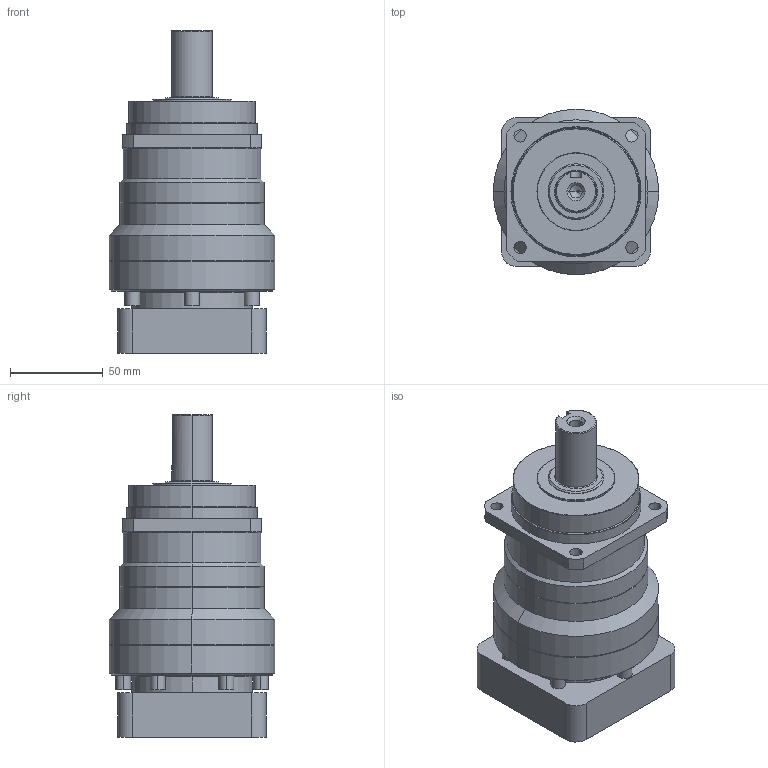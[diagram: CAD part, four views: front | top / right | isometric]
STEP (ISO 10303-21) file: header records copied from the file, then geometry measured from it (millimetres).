
FILE_DESCRIPTION (( 'STEP AP214' ), '1' );
FILE_NAME ('VRS075-L1-S2-P1 19-70-90-M6.STEP', '2023-08-31T09:33:10', ( '微软用户' ), ( '微软中国' ), 'SwSTEP 2.0', 'SolidWorks 2018', '' );
FILE_SCHEMA (( 'AUTOMOTIVE_DESIGN' ));
Length unit declared in the file: millimetre
Products named in the file (1): VRS075-L1-S2-P1 19-70-90-M6
Bounding box: 89 x 89 x 173.5 mm (x, y, z)
Volume: 652563.3 mm3; surface area: 70784.4 mm2
Topology: 1 solids, 1 shells, 187 faces, 445 edges, 279 vertices
Faces by surface type: plane 82, cylinder 68, cone 26, torus 11
Entity records: 5555 total; most frequent: CARTESIAN_POINT 1017, DIRECTION 999, ORIENTED_EDGE 886, EDGE_CURVE 443, AXIS2_PLACEMENT_3D 377, VERTEX_POINT 279, VECTOR 245, LINE 245
